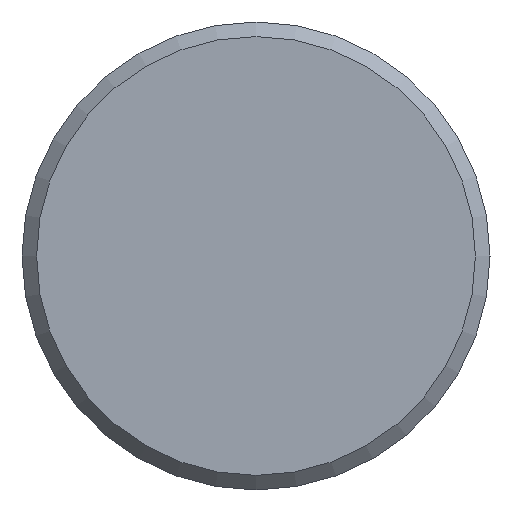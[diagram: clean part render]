
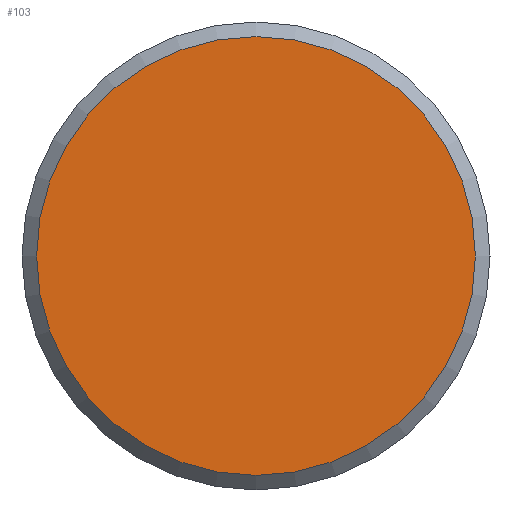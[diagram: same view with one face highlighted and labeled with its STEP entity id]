
A CAD part, left-side view. The second image highlights one B-rep face of the part: STEP entity #103.
In plain terms, the highlighted planar face has unit normal (-1, 0, 0).
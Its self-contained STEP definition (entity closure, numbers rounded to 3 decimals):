
#16=PLANE('',#138);
#30=FACE_OUTER_BOUND('',#36,.T.);
#36=EDGE_LOOP('',(#89));
#45=CIRCLE('',#137,15.);
#53=VERTEX_POINT('',#197);
#65=EDGE_CURVE('',#53,#53,#45,.T.);
#89=ORIENTED_EDGE('',*,*,#65,.F.);
#103=ADVANCED_FACE('',(#30),#16,.F.);
#137=AXIS2_PLACEMENT_3D('',#199,#170,#171);
#138=AXIS2_PLACEMENT_3D('',#200,#172,#173);
#170=DIRECTION('center_axis',(1.,0.,0.));
#171=DIRECTION('ref_axis',(0.,-1.,0.));
#172=DIRECTION('center_axis',(1.,0.,0.));
#173=DIRECTION('ref_axis',(0.,0.,-1.));
#197=CARTESIAN_POINT('',(0.,15.,0.));
#199=CARTESIAN_POINT('Origin',(0.,0.,0.));
#200=CARTESIAN_POINT('Origin',(0.,0.,0.));
